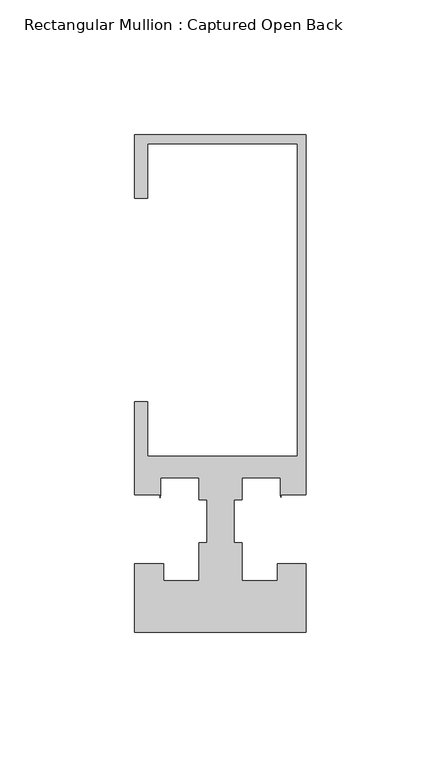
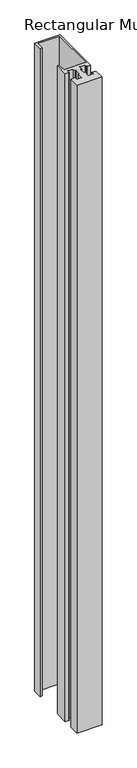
"""IFC4 building model written with IfcOpenShell, lengths in millimetres: member geometry, Rectangular Mullion : Captured Open Back."""

from ifc_helpers import new_model, si_unit, frame, origin, place, context, project, spatial, polyline, outline, extrude, source, transform, mapped, element, save


def rectangular_mullion_captured_open_back_d5d2025a(model_context):
    return source(origin(), model_context, "Body", "SweptSolid", [
        extrude(outline(polyline([(-63.5205663, 114.3), (0.0, 114.3), (0.0, -18.9488461), (-9.3386849, -18.9488461), (-9.3386849, -19.8905485), (-9.5249909, -18.948961), (-9.5249909, -12.7), (-23.8124458, -12.7), (-23.8124458, -20.8793999), (-26.7860526, -20.8793999), (-26.7860526, -36.6491027), (-23.8124461, -36.6491027), (-23.8124461, -50.8001709), (-10.7229117, -50.8001709), (-10.7229117, -44.4247364), (-0.0205663, -44.4247364), (-0.0205663, -69.8502416), (-63.5205663, -69.8502416), (-63.5205663, -44.4245655), (-52.8345479, -44.4245655), (-52.8345479, -50.8001709), (-39.6874472, -50.8001709), (-39.6874472, -36.6491027), (-36.738785, -36.6491027), (-36.738785, -20.8793999), (-39.7916658, -20.8793999), (-39.7916658, -12.7), (-53.9751125, -12.7), (-53.9751125, -18.933673), (-54.1413824, -20.0839351), (-54.1413824, -18.933673), (-63.5205663, -18.933673), (-63.5205663, 15.5833982), (-58.7374998, 15.5833982), (-58.7374998, -4.7625735), (-3.175617, -4.7625735), (-3.175617, 111.1250145), (-58.7374998, 111.1250145), (-58.7374998, 90.8721193), (-63.5205663, 90.8721193), (-63.5205663, 114.3)])), frame((0.0, 0.0, -1727.2), z_axis=(0.0, 0.0, 1.0), x_axis=(1.0, 0.0, 0.0)), (0.0, 0.0, 1.0), 1727.2),
    ])


if __name__ == "__main__":
    model = new_model("IFC4")
    model_context = context("Model", 3, world=origin())
    ifc_project = project(units=[si_unit("LENGTHUNIT", "METRE", prefix="MILLI")], contexts=[model_context])
    site = spatial("IfcSite", under=ifc_project)
    building = spatial("IfcBuilding", under=site)
    placement = place(None, origin())
    rectangular_mullion_captured_open_back_shape = rectangular_mullion_captured_open_back_d5d2025a(model_context)
    element("IfcMember", 1, ObjectType="Rectangular Mullion : Captured Open Back", at=placement, inside=building, context=model_context, shape_type="MappedRepresentation", body=[
        mapped(rectangular_mullion_captured_open_back_shape, transform((0.0, 0.0, 0.0), x_axis=(1.0, 0.0, 0.0), y_axis=(0.0, 1.0, 0.0), z_axis=(0.0, 0.0, 1.0))),
    ])
    save(model, "model.ifc")
